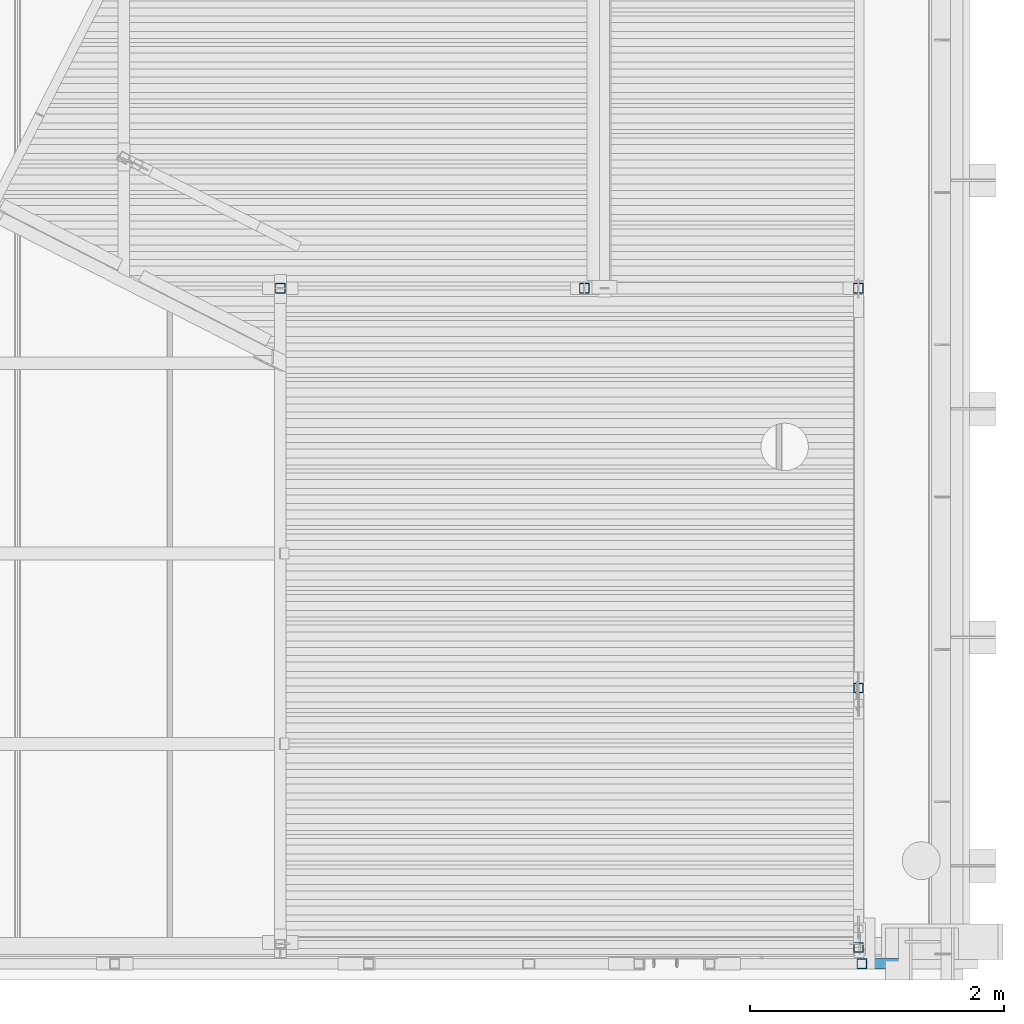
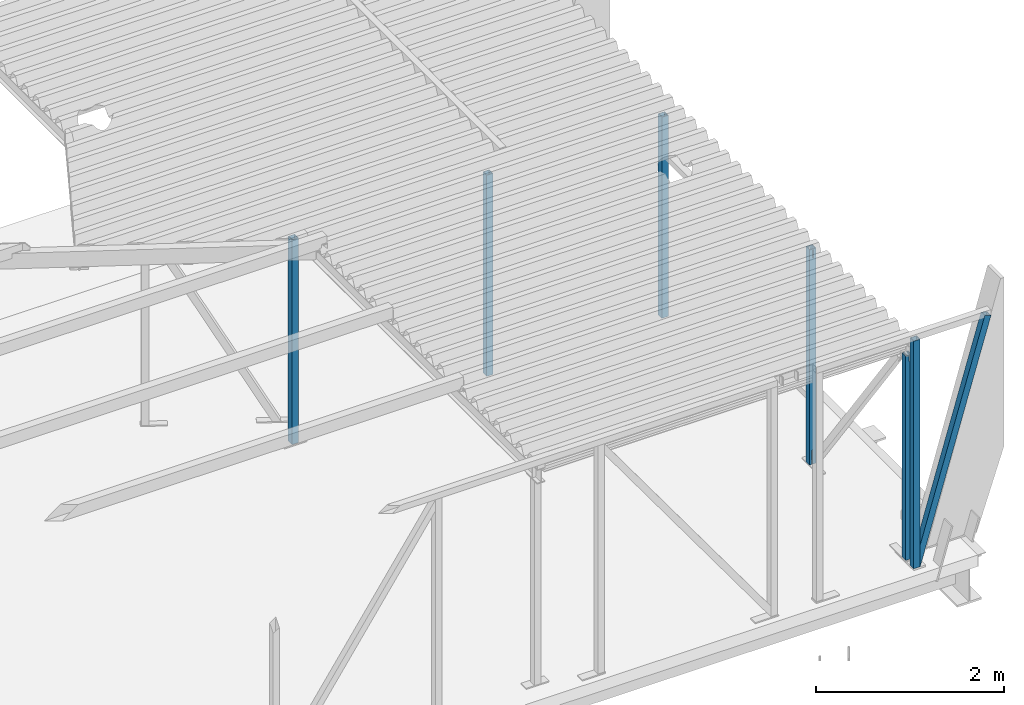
# One storey, part 2 of 30: 7 columns.
"""IFC2X3 building model written with IfcOpenShell, lengths in millimetres."""

from ifc_helpers import new_model, entity, si_unit, converted_unit, derived_unit, direction, frame, origin_with_axes, place, context, subcontext, project, spatial, faceted_brep, material, type_object, element, save


model = new_model("IFC2X3")

# Units and contexts
model_context = context("Model", 3, precision=0.01, world=frame((0.0, 4.29681676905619e-09, 0.0)), true_north=direction((4.01073788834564e-13, 1.0)))
plan_context = context("Plan", 3, precision=0.01, world=frame((0.0, 4.29681676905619e-09, 0.0)), true_north=direction((4.01073788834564e-13, 1.0)))
body_context = subcontext(model_context, "Body", "Model", "MODEL_VIEW")
ifc_project = project(units=[converted_unit("PLANEANGLEUNIT", "DEGREE", entity("IfcPositiveLengthMeasure", 0.0174532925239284), si_unit("PLANEANGLEUNIT", "RADIAN"), dimensions=[0, 0, 0, 0, 0, 0, 0]), si_unit("AREAUNIT", "SQUARE_METRE"), si_unit("LENGTHUNIT", "METRE", prefix="MILLI"), si_unit("MASSUNIT", "GRAM", prefix="KILO"), si_unit("POWERUNIT", "WATT"), si_unit("PRESSUREUNIT", "PASCAL"), si_unit("FORCEUNIT", "NEWTON", prefix="KILO"), si_unit("ELECTRICVOLTAGEUNIT", "VOLT"), si_unit("ELECTRICCURRENTUNIT", "AMPERE"), si_unit("THERMODYNAMICTEMPERATUREUNIT", "DEGREE_CELSIUS"), si_unit("TIMEUNIT", "SECOND"), si_unit("VOLUMEUNIT", "CUBIC_METRE"), derived_unit("LINEARVELOCITYUNIT", [(si_unit("LENGTHUNIT", "METRE"), 1), (si_unit("TIMEUNIT", "SECOND"), -1)]), derived_unit("VOLUMETRICFLOWRATEUNIT", [(si_unit("VOLUMEUNIT", "CUBIC_METRE"), 1), (si_unit("TIMEUNIT", "SECOND"), -1)]), derived_unit("THERMALTRANSMITTANCEUNIT", [(si_unit("POWERUNIT", "WATT"), 1), (si_unit("THERMODYNAMICTEMPERATUREUNIT", "KELVIN"), -1), (si_unit("AREAUNIT", "SQUARE_METRE"), -1)]), derived_unit("SOUNDPRESSUREUNIT", [(si_unit("PRESSUREUNIT", "PASCAL"), 1)])], contexts=[model_context, plan_context])

# Site, building, storey
site_placement = place(None, frame((0.0, -4.29681676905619e-09, 0.0), z_axis=(0.0, 0.0, 1.0), x_axis=(1.0, 0.0, 0.0)))
site = spatial("IfcSite", under=ifc_project, at=site_placement, Name="Gardermoen", CompositionType="ELEMENT")
building_placement = place(site_placement, frame((0.0, 4.29681676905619e-09, 0.0), z_axis=(0.0, 0.0, 1.0), x_axis=(1.0, 0.0, 0.0)))
building = spatial("IfcBuilding", under=site, at=building_placement, Name="TI", CompositionType="ELEMENT")
storey_placement = place(building_placement, origin_with_axes())
storey = spatial("IfcBuildingStorey", under=building, at=storey_placement, Name="F", CompositionType="ELEMENT", Elevation=0.0)

# Columns
ifc_material_1 = material(Name="STEEL/S355J2H")
column_type_1 = type_object("IfcColumnType", Name="RHS80*8", PredefinedType="NOTDEFINED")
column_1_placement = place(storey_placement, frame((611289.642290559, 689255.006707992, 210895.0), z_axis=(0.0, 1.0, 0.0), x_axis=(0.0, 0.0, 1.0)))
element("IfcColumn", 1, at=column_1_placement, inside=storey, type_object=column_type_1, material=ifc_material_1, Name="STÅLSØYLE", ObjectType="RHS80*8", context=body_context, shape_type="Brep", body=[
    faceted_brep([(2657.0, 15.9977388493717, 40.0), (2576.63858773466, 15.997738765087, 40.0000031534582), (2576.63824641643, 15.9977398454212, 32.0), (2657.0, 15.9977399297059, 32.0), (2576.63858774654, 3.99773876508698, 40.000001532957), (2576.63824642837, 3.99773984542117, 32.0), (2656.9976041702, 3.99773884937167, 39.9999999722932), (2657.0, 3.99773992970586, 32.0), (2657.0, 15.9977485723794, -32.0), (2576.63551587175, 15.9977484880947, -32.0), (2576.63517455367, 15.9977495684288, -40.0), (2657.0, 15.9977496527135, -40.0), (2576.63551588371, 3.99774848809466, -32.0), (2576.63517456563, 3.99774956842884, -40.0), (2656.99843843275, 3.99774857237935, -32.0000000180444), (2657.0, 3.99774965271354, -40.0), (4.36557456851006e-10, 32.0, 32.0), (-4.65661287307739e-10, 32.0, -32.0), (2657.0, 32.0, -32.0), (2657.0, 32.0, 32.0), (2657.0, -32.0, 32.0), (4.36557456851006e-10, -32.0, 32.0), (-4.65661287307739e-10, -32.0, -32.0), (2657.0, -32.0, -32.0), (0.0, -40.0, -40.0), (0.0, -40.0, 40.0), (0.0, 40.0, 40.0), (0.0, 40.0, -40.0), (2657.0, 40.0, 40.0), (2657.0, 40.0, -40.0), (2657.0, -40.0, -40.0), (2657.0, -40.0, 40.0)], [[[0, 1, 2, 3]], [[4, 5, 2, 1]], [[6, 7, 5, 4]], [[8, 9, 10, 11]], [[12, 13, 10, 9]], [[14, 15, 13, 12]], [[16, 17, 18, 19]], [[20, 21, 16, 19, 3, 2, 5, 7]], [[22, 21, 20, 23]], [[9, 8, 18, 17, 22, 23, 14, 12]], [[24, 25, 26, 27], [16, 21, 22, 17]], [[27, 26, 28, 29]], [[19, 18, 8, 11, 29, 28, 0, 3]], [[30, 24, 27, 29, 11, 10, 13, 15]], [[25, 24, 30, 31]], [[1, 0, 28, 26, 25, 31, 6, 4]], [[31, 30, 15, 14, 23, 20, 7, 6]]]),
])
column_2_placement = place(storey_placement, frame((611289.642290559, 691300.064876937, 210895.0), z_axis=(0.0, 1.0, 0.0), x_axis=(0.0, 0.0, 1.0)))
element("IfcColumn", 2, at=column_2_placement, inside=storey, type_object=column_type_1, material=ifc_material_1, Name="STÅLSØYLE", ObjectType="RHS80*8", context=body_context, shape_type="Brep", body=[
    faceted_brep([(0.0, -4.00226207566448, 40.0), (0.0, -4.00226207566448, 32.0), (185.070673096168, -4.00226207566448, 32.0), (185.070673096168, -4.00226207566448, 40.0), (185.070673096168, -16.0022620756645, 40.0), (185.070673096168, -16.0022620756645, 32.0), (0.0, -16.0022620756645, 32.0), (0.0, -16.0022620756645, 40.0), (0.0, -4.00226207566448, -32.0), (0.0, -4.00226207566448, -40.0), (185.070673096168, -4.00226207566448, -40.0), (185.070673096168, -4.00226207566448, -32.0), (185.070673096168, -16.0022620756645, -32.0), (185.070673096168, -16.0022620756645, -40.0), (0.0, -16.0022620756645, -40.0), (0.0, -16.0022620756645, -32.0), (0.0, -40.0, 40.0), (0.0, -40.0, -40.0), (2800.0, -40.0, -40.0), (2800.0, -40.0, 40.0), (0.0, 40.0, -40.0), (0.0, 40.0, 40.0), (2800.0, 40.0, 40.0), (2800.0, 40.0, -40.0), (-4.65661287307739e-10, 32.0, -32.0), (4.36557456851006e-10, 32.0, 32.0), (2800.0, 32.0, -32.0), (2800.0, 32.0, 32.0), (2800.0, -32.0, 32.0), (2800.0, -32.0, -32.0), (-4.65661287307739e-10, -32.0, -32.0), (4.36557456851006e-10, -32.0, 32.0), (2681.49990677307, 4.99921040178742, 32.0), (2681.49990677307, -5.00078959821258, 32.0), (2788.49990677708, -5.00078959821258, 32.0), (2788.49990677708, 4.99921040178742, 32.0), (2788.49990677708, 4.99920879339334, 40.0), (2788.49990677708, -5.00079120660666, 40.0), (2681.49990677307, 4.99920879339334, 40.0), (2681.49990677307, -5.00079120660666, 40.0), (2681.49990677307, 4.9992248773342, -40.0), (2681.49990677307, -5.0007751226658, -40.0), (2788.49990677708, -5.0007751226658, -40.0), (2788.49990677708, 4.9992248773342, -40.0), (2788.49990677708, 4.99922326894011, -32.0), (2788.49990677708, -5.00077673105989, -32.0), (2681.49990677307, 4.99922326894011, -32.0), (2681.49990677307, -5.00077673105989, -32.0)], [[[0, 1, 2, 3]], [[4, 5, 6, 7]], [[3, 2, 5, 4]], [[8, 9, 10, 11]], [[12, 13, 14, 15]], [[11, 10, 13, 12]], [[16, 17, 18, 19]], [[20, 21, 22, 23]], [[21, 20, 9, 8, 24, 25, 1, 0]], [[25, 24, 26, 27]], [[19, 18, 23, 22], [28, 27, 26, 29]], [[30, 31, 28, 29]], [[1, 25, 27, 28, 31, 6, 5, 2], [32, 33, 34, 35]], [[36, 35, 34, 37]], [[38, 32, 35, 36]], [[39, 33, 32, 38]], [[37, 34, 33, 39]], [[16, 19, 22, 21, 0, 3, 4, 7], [38, 36, 37, 39]], [[31, 30, 15, 14, 17, 16, 7, 6]], [[9, 20, 23, 18, 17, 14, 13, 10], [40, 41, 42, 43]], [[44, 43, 42, 45]], [[46, 40, 43, 44]], [[47, 41, 40, 46]], [[45, 42, 41, 47]], [[30, 29, 26, 24, 8, 11, 12, 15], [46, 44, 45, 47]]]),
])
for number, where, z_axis, x_axis in (
    (3, (611289.642290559, 694450.068773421, 210895.0), (0.0, 1.0, 0.0), (0.0, 0.0, 1.0)),
    (4, (609131.33998343, 694450.058773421, 210895.0), (0.0, 1.0, 0.0), (0.0, 0.0, 1.0)),
):
    element("IfcColumn", number, at=place(storey_placement, frame(where, z_axis=z_axis, x_axis=x_axis)), inside=storey, type_object=column_type_1, material=ifc_material_1, Name="STÅLSØYLE", ObjectType="RHS80*8", context=body_context, shape_type="Brep", body=[
        faceted_brep([(0.0, 33.6999998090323, -33.6999998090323), (0.0, -33.6999998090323, -33.6999998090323), (2616.99970112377, -33.6999998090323, -33.6999998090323), (2616.99970112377, 33.6999998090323, -33.6999998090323), (0.0, -33.6999998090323, 33.6999998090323), (2616.9996984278, -33.6999998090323, 33.6999998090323), (0.0, 33.6999998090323, 33.6999998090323), (2616.9996984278, 33.6999998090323, 33.6999998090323), (0.0, 40.0, -40.0), (0.0, 40.0, 40.0), (2616.99969817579, 40.0, 40.0), (2616.99970137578, 40.0, -40.0), (0.0, -40.0, 40.0), (2616.99969817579, -40.0, 40.0), (0.0, -40.0, -40.0), (2616.99970137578, -40.0, -40.0)], [[[0, 1, 2, 3]], [[1, 4, 5, 2]], [[4, 6, 7, 5]], [[6, 0, 3, 7]], [[8, 9, 10, 11]], [[9, 12, 13, 10]], [[12, 14, 15, 13]], [[14, 8, 11, 15]], [[13, 15, 11, 10], [5, 7, 3, 2]], [[14, 12, 9, 8], [6, 4, 1, 0]]]),
    ])
column_3_placement = place(storey_placement, frame((606736.340441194, 694450.069754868, 210845.0), z_axis=(0.0, 1.0, 0.0), x_axis=(0.0, 0.0, 1.0)))
element("IfcColumn", 5, at=column_3_placement, inside=storey, type_object=column_type_1, material=ifc_material_1, Name="STÅLSØYLE", ObjectType="RHS80*8", context=body_context, shape_type="Brep", body=[
    faceted_brep([(0.0, 33.6999998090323, -33.6999998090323), (0.0, -33.6999998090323, -33.6999998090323), (2666.99988555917, -33.6999998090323, -33.6999998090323), (2666.99988555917, 33.6999998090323, -33.6999998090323), (0.0, -33.6999998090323, 33.6999998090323), (2666.99988555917, -33.6999998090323, 33.6999998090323), (0.0, 33.6999998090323, 33.6999998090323), (2666.99988555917, 33.6999998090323, 33.6999998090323), (0.0, 40.0, -40.0), (0.0, 40.0, 40.0), (2666.99988555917, 40.0, 40.0), (2666.99988555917, 40.0, -40.0), (0.0, -40.0, 40.0), (2666.99988555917, -40.0, 40.0), (0.0, -40.0, -40.0), (2666.99988555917, -40.0, -40.0)], [[[0, 1, 2, 3]], [[1, 4, 5, 2]], [[4, 6, 7, 5]], [[6, 0, 3, 7]], [[8, 9, 10, 11]], [[9, 12, 13, 10]], [[12, 14, 15, 13]], [[14, 8, 11, 15]], [[13, 15, 11, 10], [5, 7, 3, 2]], [[14, 12, 9, 8], [6, 4, 1, 0]]]),
])
ifc_material_2 = material(Name="STEEL/S355")
column_type_2 = type_object("IfcColumnType", Name="RHS80*80*6.3", PredefinedType="NOTDEFINED")
column_4_placement = place(storey_placement, frame((611318.252807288, 689127.502606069, 210866.286041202), z_axis=(0.959369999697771, 0.0, -0.282151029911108), x_axis=(0.282151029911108, 0.0, 0.959369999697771)))
element("IfcColumn", 6, at=column_4_placement, inside=storey, type_object=column_type_2, material=ifc_material_2, Name="STÅLSØYLE", ObjectType="RHS80*80*6.3", context=body_context, shape_type="Brep", body=[
    faceted_brep([(0.0, 33.6999998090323, -33.6999998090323), (0.0, -33.6999998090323, -33.6999998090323), (3091.92562585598, -33.6999998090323, -33.6999998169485), (3091.92562585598, 33.6999998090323, -33.6999998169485), (0.0, -33.6999998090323, 33.6999998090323), (3091.92562585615, -33.6999998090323, 33.6999998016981), (0.0, 33.6999998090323, 33.6999998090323), (3091.92562585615, 33.6999998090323, 33.6999998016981), (0.0, 40.0, -40.0), (0.0, 40.0, 40.0), (3091.92562585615, 40.0, 39.9999999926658), (3091.92562585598, 40.0, -40.0000000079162), (0.0, -40.0, 40.0), (3091.92562585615, -40.0, 39.9999999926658), (0.0, -40.0, -40.0), (3091.92562585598, -40.0, -40.0000000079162)], [[[0, 1, 2, 3]], [[1, 4, 5, 2]], [[4, 6, 7, 5]], [[6, 0, 3, 7]], [[8, 9, 10, 11]], [[9, 12, 13, 10]], [[12, 14, 15, 13]], [[14, 8, 11, 15]], [[13, 15, 11, 10], [5, 7, 3, 2]], [[14, 12, 9, 8], [6, 4, 1, 0]]]),
])
column_5_placement = place(storey_placement, frame((611316.907607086, 689127.502606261, 210855.0), z_axis=(1.0, 0.0, 0.0), x_axis=(0.0, 0.0, 1.0)))
element("IfcColumn", 7, at=column_5_placement, inside=storey, type_object=column_type_2, material=ifc_material_2, Name="STÅLSØYLE", ObjectType="RHS80*80*6.3", context=body_context, shape_type="Brep", body=[
    faceted_brep([(0.0, 33.6999998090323, -33.6999998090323), (0.0, -33.6999998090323, -33.6999998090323), (2960.0006866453, -33.6999998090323, -33.6999998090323), (2960.0006866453, 33.6999998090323, -33.6999998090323), (0.0, -33.6999998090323, 33.6999998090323), (2960.0006866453, -33.6999998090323, 33.6999998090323), (0.0, 33.6999998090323, 33.6999998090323), (2960.0006866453, 33.6999998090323, 33.6999998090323), (0.0, 40.0, -40.0), (0.0, 40.0, 40.0), (2960.0006866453, 40.0, 40.0), (2960.0006866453, 40.0, -40.0), (0.0, -40.0, 40.0), (2960.0006866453, -40.0, 40.0), (0.0, -40.0, -40.0), (2960.0006866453, -40.0, -40.0)], [[[0, 1, 2, 3]], [[1, 4, 5, 2]], [[4, 6, 7, 5]], [[6, 0, 3, 7]], [[8, 9, 10, 11]], [[9, 12, 13, 10]], [[12, 14, 15, 13]], [[14, 8, 11, 15]], [[13, 15, 11, 10], [5, 7, 3, 2]], [[14, 12, 9, 8], [6, 4, 1, 0]]]),
])

save(model, "model.ifc")
